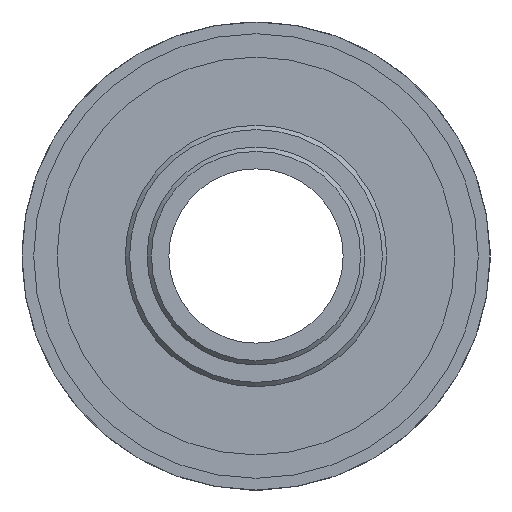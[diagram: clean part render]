
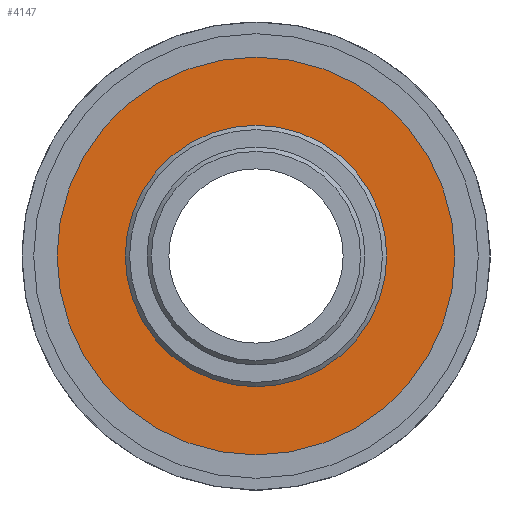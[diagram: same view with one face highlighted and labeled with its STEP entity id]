
A CAD part, left-side view. The second image highlights one B-rep face of the part: STEP entity #4147.
In plain terms, the highlighted planar face has unit normal (-1, 0, 0).
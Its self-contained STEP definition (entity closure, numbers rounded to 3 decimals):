
#290=FACE_BOUND('',#857,.T.);
#312=CIRCLE('',#4440,19.125);
#564=FACE_OUTER_BOUND('',#856,.T.);
#856=EDGE_LOOP('',(#2781));
#857=EDGE_LOOP('',(#2782,#2783,#2784,#2785,#2786,#2787,#2788,#2789,#2790,
#2791,#2792,#2793));
#1132=LINE('',#6226,#1408);
#1136=LINE('',#6234,#1412);
#1139=LINE('',#6240,#1415);
#1142=LINE('',#6246,#1418);
#1145=LINE('',#6252,#1421);
#1148=LINE('',#6258,#1424);
#1151=LINE('',#6264,#1427);
#1154=LINE('',#6270,#1430);
#1158=LINE('',#6278,#1434);
#1162=LINE('',#6287,#1438);
#1164=LINE('',#6290,#1440);
#1167=LINE('',#6294,#1443);
#1408=VECTOR('',#4926,0.363);
#1412=VECTOR('',#4932,10.058);
#1415=VECTOR('',#4937,0.363);
#1418=VECTOR('',#4942,10.058);
#1421=VECTOR('',#4947,0.363);
#1424=VECTOR('',#4952,10.058);
#1427=VECTOR('',#4957,0.363);
#1430=VECTOR('',#4962,10.058);
#1434=VECTOR('',#4968,0.363);
#1438=VECTOR('',#4974,0.363);
#1440=VECTOR('',#4978,10.058);
#1443=VECTOR('',#4983,10.058);
#1684=VERTEX_POINT('',#6224);
#1685=VERTEX_POINT('',#6225);
#1688=VERTEX_POINT('',#6233);
#1690=VERTEX_POINT('',#6239);
#1692=VERTEX_POINT('',#6245);
#1694=VERTEX_POINT('',#6251);
#1696=VERTEX_POINT('',#6257);
#1698=VERTEX_POINT('',#6263);
#1700=VERTEX_POINT('',#6269);
#1703=VERTEX_POINT('',#6277);
#1706=VERTEX_POINT('',#6284);
#1707=VERTEX_POINT('',#6286);
#1716=VERTEX_POINT('',#6320);
#2064=EDGE_CURVE('',#1684,#1685,#1132,.F.);
#2068=EDGE_CURVE('',#1688,#1685,#1136,.T.);
#2071=EDGE_CURVE('',#1688,#1690,#1139,.F.);
#2074=EDGE_CURVE('',#1692,#1690,#1142,.T.);
#2077=EDGE_CURVE('',#1692,#1694,#1145,.F.);
#2080=EDGE_CURVE('',#1696,#1694,#1148,.T.);
#2083=EDGE_CURVE('',#1696,#1698,#1151,.F.);
#2086=EDGE_CURVE('',#1700,#1698,#1154,.T.);
#2090=EDGE_CURVE('',#1700,#1703,#1158,.F.);
#2094=EDGE_CURVE('',#1706,#1707,#1162,.F.);
#2096=EDGE_CURVE('',#1706,#1703,#1164,.T.);
#2099=EDGE_CURVE('',#1684,#1707,#1167,.T.);
#2108=EDGE_CURVE('',#1716,#1716,#312,.T.);
#2781=ORIENTED_EDGE('',*,*,#2108,.F.);
#2782=ORIENTED_EDGE('',*,*,#2086,.T.);
#2783=ORIENTED_EDGE('',*,*,#2083,.F.);
#2784=ORIENTED_EDGE('',*,*,#2080,.T.);
#2785=ORIENTED_EDGE('',*,*,#2077,.F.);
#2786=ORIENTED_EDGE('',*,*,#2074,.T.);
#2787=ORIENTED_EDGE('',*,*,#2071,.F.);
#2788=ORIENTED_EDGE('',*,*,#2068,.T.);
#2789=ORIENTED_EDGE('',*,*,#2064,.F.);
#2790=ORIENTED_EDGE('',*,*,#2099,.T.);
#2791=ORIENTED_EDGE('',*,*,#2094,.F.);
#2792=ORIENTED_EDGE('',*,*,#2096,.T.);
#2793=ORIENTED_EDGE('',*,*,#2090,.F.);
#3999=PLANE('',#4442);
#4147=ADVANCED_FACE('',(#564,#290),#3999,.F.);
#4440=AXIS2_PLACEMENT_3D('',#6321,#5018,#5019);
#4442=AXIS2_PLACEMENT_3D('',#6324,#5022,#5023);
#4926=DIRECTION('',(0.,0.866,0.5));
#4932=DIRECTION('',(0.,1.,0.));
#4937=DIRECTION('',(0.,0.866,-0.5));
#4942=DIRECTION('',(0.,0.5,-0.866));
#4947=DIRECTION('',(0.,0.,-1.));
#4952=DIRECTION('',(0.,-0.5,-0.866));
#4957=DIRECTION('',(0.,-0.866,-0.5));
#4962=DIRECTION('',(0.,-1.,0.));
#4968=DIRECTION('',(0.,-0.866,0.5));
#4974=DIRECTION('',(0.,0.,1.));
#4978=DIRECTION('',(0.,-0.5,0.866));
#4983=DIRECTION('',(0.,0.5,0.866));
#5018=DIRECTION('center_axis',(1.,0.,0.));
#5019=DIRECTION('ref_axis',(0.,0.,-1.));
#5022=DIRECTION('center_axis',(1.,0.,0.));
#5023=DIRECTION('ref_axis',(0.,0.,-1.));
#6224=CARTESIAN_POINT('',(3.56,5.344,-8.892));
#6225=CARTESIAN_POINT('',(3.56,5.029,-9.074));
#6226=CARTESIAN_POINT('',(3.56,5.186,-8.983));
#6233=CARTESIAN_POINT('',(3.56,-5.029,-9.074));
#6234=CARTESIAN_POINT('',(3.56,-2.619,-9.074));
#6239=CARTESIAN_POINT('',(3.56,-5.344,-8.892));
#6240=CARTESIAN_POINT('',(3.56,-5.186,-8.983));
#6245=CARTESIAN_POINT('',(3.56,-10.373,-0.181));
#6246=CARTESIAN_POINT('',(3.56,-9.168,-2.268));
#6251=CARTESIAN_POINT('',(3.56,-10.373,0.181));
#6252=CARTESIAN_POINT('',(3.56,-10.373,0.));
#6257=CARTESIAN_POINT('',(3.56,-5.344,8.892));
#6258=CARTESIAN_POINT('',(3.56,-6.548,6.805));
#6263=CARTESIAN_POINT('',(3.56,-5.029,9.074));
#6264=CARTESIAN_POINT('',(3.56,-5.186,8.983));
#6269=CARTESIAN_POINT('',(3.56,5.029,9.074));
#6270=CARTESIAN_POINT('',(3.56,2.619,9.074));
#6277=CARTESIAN_POINT('',(3.56,5.344,8.892));
#6278=CARTESIAN_POINT('',(3.56,5.186,8.983));
#6284=CARTESIAN_POINT('',(3.56,10.373,0.181));
#6286=CARTESIAN_POINT('',(3.56,10.373,-0.181));
#6287=CARTESIAN_POINT('',(3.56,10.373,0.));
#6290=CARTESIAN_POINT('',(3.56,9.168,2.268));
#6294=CARTESIAN_POINT('',(3.56,6.548,-6.805));
#6320=CARTESIAN_POINT('',(3.56,0.,19.125));
#6321=CARTESIAN_POINT('Origin',(3.56,0.,0.));
#6324=CARTESIAN_POINT('Origin',(3.56,0.,0.));
